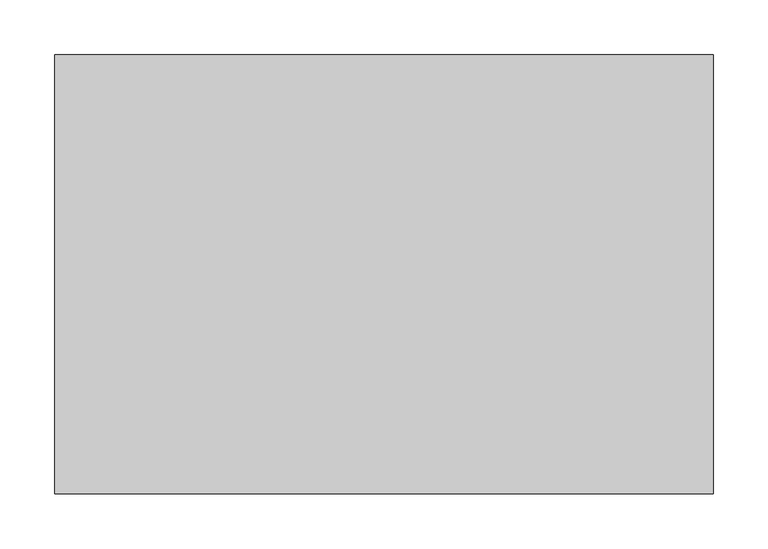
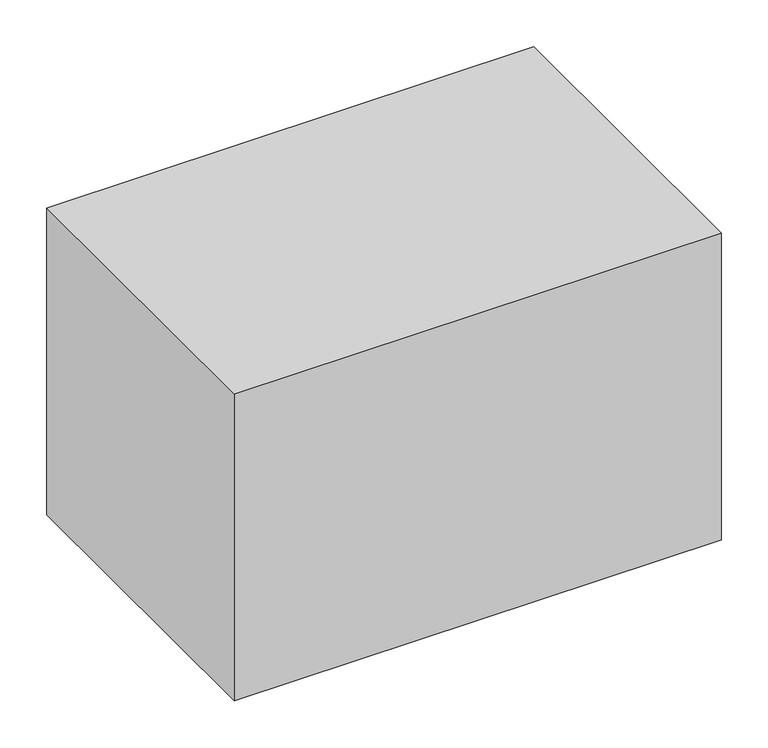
"""IFC4 building model written with IfcOpenShell, lengths in millimetres: proxy geometry, Movél21 : Movél."""

from ifc_helpers import new_model, si_unit, frame, origin, place, context, project, spatial, polyline, outline, extrude, source, transform, mapped, element, save


def generic_models_1e4ed024(model_context):
    return source(origin(), model_context, "Body", "SweptSolid", [
        extrude(outline(polyline([(24591.5462457, 11080.4374423), (24591.5462457, 10680.4374423), (23991.5462457, 10680.4374423), (23991.5462457, 11080.4374423), (24591.5462457, 11080.4374423)])), frame((0.0, 0.0, 400.0), z_axis=(0.0, 0.0, 1.0), x_axis=(1.0, 0.0, 0.0)), (0.0, 0.0, 1.0), 400.0),
    ])


if __name__ == "__main__":
    model = new_model("IFC4")
    model_context = context("Model", 3, world=origin())
    ifc_project = project(units=[si_unit("LENGTHUNIT", "METRE", prefix="MILLI")], contexts=[model_context])
    site = spatial("IfcSite", under=ifc_project)
    building = spatial("IfcBuilding", under=site)
    placement = place(None, origin())
    generic_models_shape = generic_models_1e4ed024(model_context)
    element("IfcBuildingElementProxy", 1, Name="Movél21 : Movél", ObjectType="Movél21 : Movél", at=placement, inside=building, context=model_context, shape_type="MappedRepresentation", body=[
        mapped(generic_models_shape, transform((0.0, 0.0, 0.0), x_axis=(1.0, 0.0, 0.0), y_axis=(0.0, 1.0, 0.0), z_axis=(0.0, 0.0, 1.0))),
    ])
    save(model, "model.ifc")
